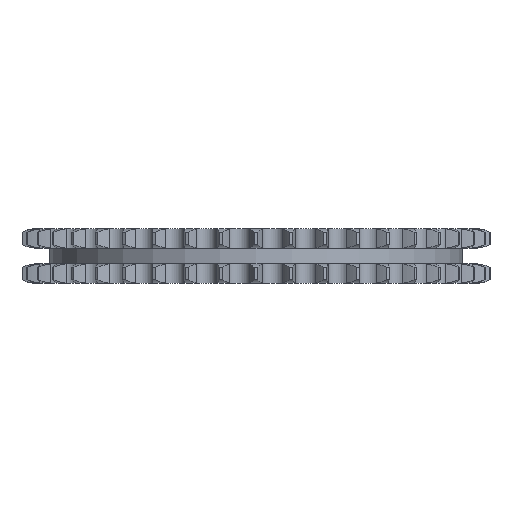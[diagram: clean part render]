
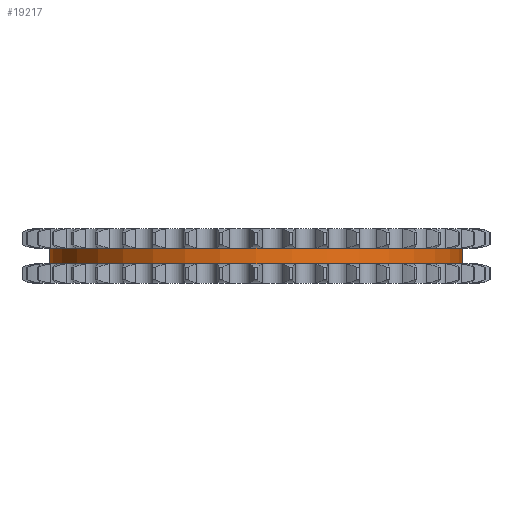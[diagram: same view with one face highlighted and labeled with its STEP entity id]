
A CAD part, left-side view. The second image highlights one B-rep face of the part: STEP entity #19217.
In plain terms, the highlighted cylindrical face has radius 96.216 mm (diameter 192.431 mm), a partial arc.
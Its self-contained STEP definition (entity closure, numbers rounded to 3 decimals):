
#3940=DIRECTION('',(0.,0.,-1.));
#3941=VECTOR('',#3940,7.3);
#3942=CARTESIAN_POINT('',(0.,96.216,3.65));
#3943=LINE('',#3942,#3941);
#3947=CARTESIAN_POINT('',(0.,0.,3.65));
#3948=DIRECTION('',(0.,0.,1.));
#3949=DIRECTION('',(0.,1.,0.));
#3950=AXIS2_PLACEMENT_3D('',#3947,#3948,#3949);
#3955=DIRECTION('',(0.,0.,-1.));
#3956=VECTOR('',#3955,7.3);
#3957=CARTESIAN_POINT('',(0.,-96.216,3.65));
#3958=LINE('',#3957,#3956);
#3962=CARTESIAN_POINT('',(0.,0.,-3.65));
#3963=DIRECTION('',(0.,0.,1.));
#3964=DIRECTION('',(0.,1.,0.));
#3965=AXIS2_PLACEMENT_3D('',#3962,#3963,#3964);
#15356=CARTESIAN_POINT('',(0.,96.216,3.65));
#15357=CARTESIAN_POINT('',(0.,96.216,-3.65));
#15358=VERTEX_POINT('',#15356);
#15359=VERTEX_POINT('',#15357);
#15360=CARTESIAN_POINT('',(0.,-96.216,3.65));
#15361=CARTESIAN_POINT('',(0.,-96.216,-3.65));
#15362=VERTEX_POINT('',#15360);
#15363=VERTEX_POINT('',#15361);
#19205=CARTESIAN_POINT('',(0.,0.,4.015));
#19206=DIRECTION('',(0.,0.,-1.));
#19207=DIRECTION('',(0.,-1.,0.));
#19208=AXIS2_PLACEMENT_3D('',#19205,#19206,#19207);
#19209=CYLINDRICAL_SURFACE('',#19208,96.216);
#19210=ORIENTED_EDGE('',*,*,#19195,.F.);
#19211=ORIENTED_EDGE('',*,*,#19185,.T.);
#19212=ORIENTED_EDGE('',*,*,#19199,.T.);
#19214=ORIENTED_EDGE('',*,*,#19213,.F.);
#19215=EDGE_LOOP('',(#19210,#19211,#19212,#19214));
#19216=FACE_OUTER_BOUND('',#19215,.F.);
#19217=ADVANCED_FACE('',(#19216),#19209,.T.);
#3951=CIRCLE('',#3950,96.216);
#3966=CIRCLE('',#3965,96.216);
#19185=EDGE_CURVE('',#15358,#15362,#3951,.T.);
#19195=EDGE_CURVE('',#15358,#15359,#3943,.T.);
#19199=EDGE_CURVE('',#15362,#15363,#3958,.T.);
#19213=EDGE_CURVE('',#15359,#15363,#3966,.T.);
